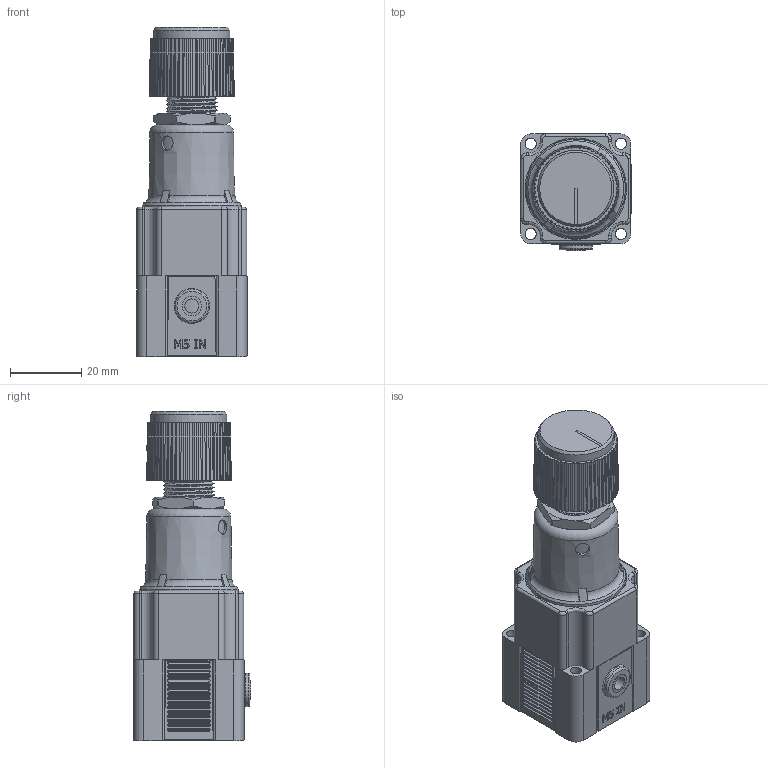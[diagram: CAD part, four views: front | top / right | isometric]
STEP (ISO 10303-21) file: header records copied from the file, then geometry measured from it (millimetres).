
FILE_DESCRIPTION(/* description */ (''),/* implementation_level */ '2;1');
FILE_NAME(/* name */ 'K:\Normteile INVENTOR\Air-Logic\Regulators\NR4000\NR 4___ S M5 Threads In.igs.ipt.stp',/* time_stamp */ '2020-05-27T10:51:46+02:00',/* author */ ('Paul'),/* organization */ (''),/* preprocessor_version */ 'ST-DEVELOPER v18',/* originating_system */ 'Autodesk Inventor 2020',/* authorisation */ '');
FILE_SCHEMA (('AUTOMOTIVE_DESIGN { 1 0 10303 214 3 1 1 }'));
Length unit declared in the file: inch
Products named in the file (1): NR 4___ S M5 Threads In.igs
Bounding box: 31.06 x 32.97 x 92.65 mm (x, y, z)
Volume: 54835.8 mm3; surface area: 18229.8 mm2
Topology: 1 solids, 1 shells, 948 faces, 2450 edges, 1567 vertices
Faces by surface type: plane 479, cylinder 328, cone 82, bspline 36, torus 23
Full cylindrical faces by diameter (mm): 3.175 x4, 3.962 x1, 3.988 x1, 4.039 x1, 4.064 x1, 5.486 x1, 6.248 x1, 9.169 x1, 9.398 x1, 9.652 x1, 12.903 x1, 14.288 x2, 19.406 x1, 21.476 x1, 26.264 x1, 27.94 x1, 27.991 x1, 28.575 x1
Entity records: 37629 total; most frequent: CARTESIAN_POINT 13012, DIRECTION 5106, ORIENTED_EDGE 4900, EDGE_CURVE 2450, AXIS2_PLACEMENT_3D 1934, VERTEX_POINT 1567, LINE 1238, VECTOR 1238
